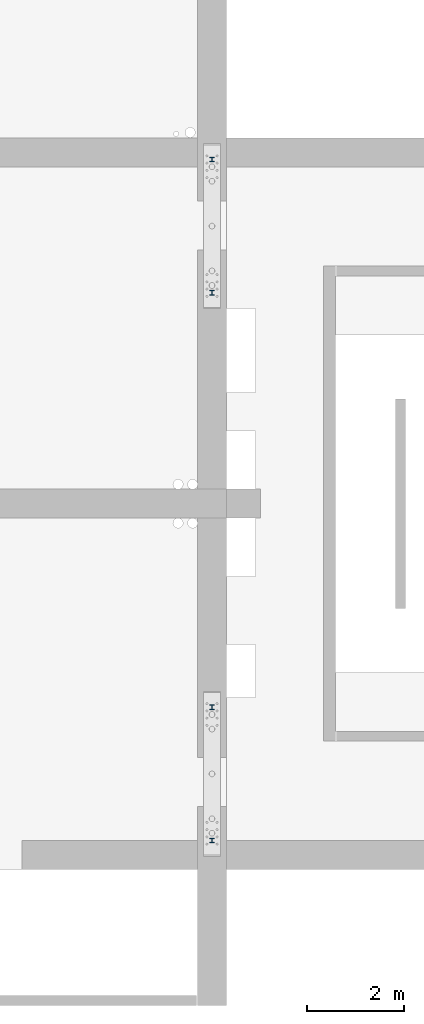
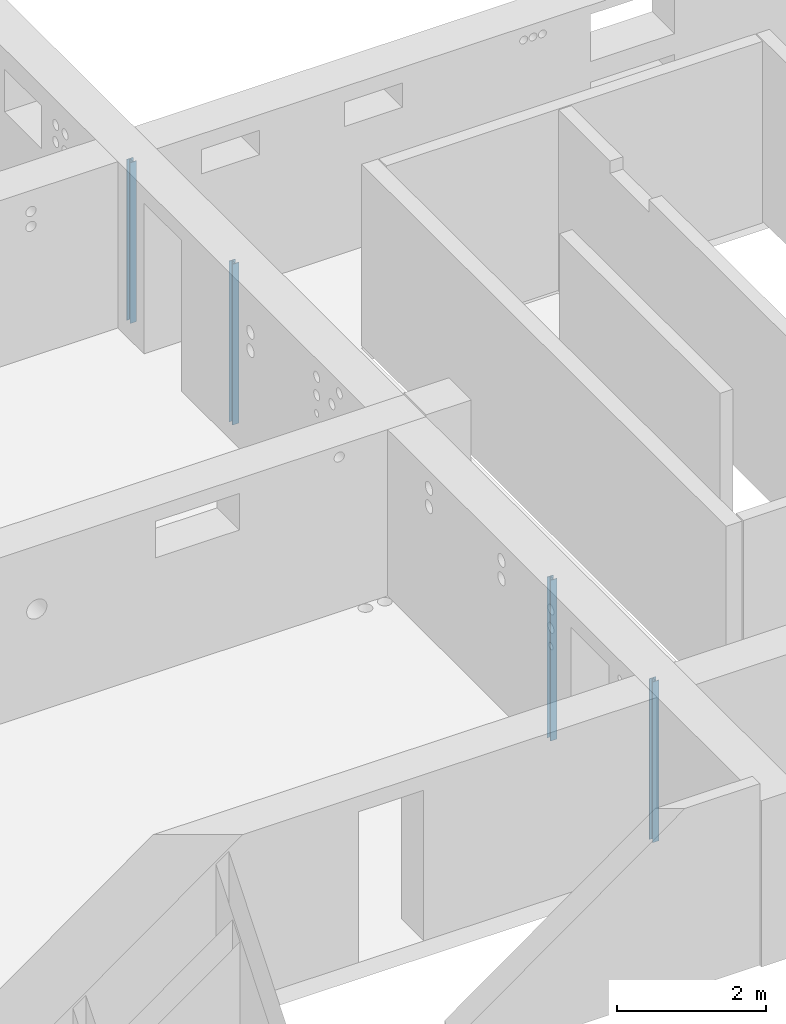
# One storey, part 1 of 8: 4 columns.
"""IFC2X3 building model written with IfcOpenShell, lengths in millimetres."""

from ifc_helpers import new_model, entity, si_unit, converted_unit, derived_unit, direction, frame, frame_2d, origin, place, context, subcontext, project, spatial, polyline, circle_curve, parameter, trimmed, segment, composite_curve, outline, extrude, source, transform, mapped, material, type_object, type_shapes, element, save


model = new_model("IFC2X3")

# Units and contexts
model_context = context("Model", 3, precision=0.01, world=origin(), true_north=direction((6.12303176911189e-17, 1.0)))
body_context = subcontext(model_context, "Body", "Model", "MODEL_VIEW")
ifc_project = project(units=[si_unit("LENGTHUNIT", "METRE", prefix="MILLI"), si_unit("AREAUNIT", "SQUARE_METRE"), si_unit("VOLUMEUNIT", "CUBIC_METRE"), converted_unit("PLANEANGLEUNIT", "DEGREE", entity("IfcRatioMeasure", 0.0174532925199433), si_unit("PLANEANGLEUNIT", "RADIAN"), dimensions=[0, 0, 0, 0, 0, 0, 0]), si_unit("MASSUNIT", "GRAM", prefix="KILO"), derived_unit("MASSDENSITYUNIT", [(si_unit("MASSUNIT", "GRAM", prefix="KILO"), 1), (si_unit("LENGTHUNIT", "METRE"), -3)]), si_unit("TIMEUNIT", "SECOND"), si_unit("FREQUENCYUNIT", "HERTZ"), si_unit("THERMODYNAMICTEMPERATUREUNIT", "DEGREE_CELSIUS"), derived_unit("THERMALTRANSMITTANCEUNIT", [(si_unit("MASSUNIT", "GRAM", prefix="KILO"), 1), (si_unit("THERMODYNAMICTEMPERATUREUNIT", "KELVIN"), -1), (si_unit("TIMEUNIT", "SECOND"), -3)]), derived_unit("VOLUMETRICFLOWRATEUNIT", [(si_unit("LENGTHUNIT", "METRE"), 3), (si_unit("TIMEUNIT", "SECOND"), -1)]), si_unit("ELECTRICCURRENTUNIT", "AMPERE"), si_unit("ELECTRICVOLTAGEUNIT", "VOLT"), si_unit("POWERUNIT", "WATT"), si_unit("FORCEUNIT", "NEWTON", prefix="KILO"), si_unit("ILLUMINANCEUNIT", "LUX"), si_unit("LUMINOUSFLUXUNIT", "LUMEN"), si_unit("LUMINOUSINTENSITYUNIT", "CANDELA"), derived_unit("USERDEFINED", [(si_unit("MASSUNIT", "GRAM", prefix="KILO"), -1), (si_unit("LENGTHUNIT", "METRE"), -2), (si_unit("TIMEUNIT", "SECOND"), 3), (si_unit("LUMINOUSFLUXUNIT", "LUMEN"), 1)]), derived_unit("LINEARVELOCITYUNIT", [(si_unit("LENGTHUNIT", "METRE"), 1), (si_unit("TIMEUNIT", "SECOND"), -1)]), si_unit("PRESSUREUNIT", "PASCAL"), derived_unit("USERDEFINED", [(si_unit("LENGTHUNIT", "METRE"), -2), (si_unit("MASSUNIT", "GRAM", prefix="KILO"), 1), (si_unit("TIMEUNIT", "SECOND"), -2)])], contexts=[model_context])

# Site, building, storey
site_placement = place(None, origin())
site = spatial("IfcSite", under=ifc_project, at=site_placement, Name="Default", CompositionType="ELEMENT")
building_placement = place(site_placement, origin())
building = spatial("IfcBuilding", under=site, at=building_placement, Name="niet gebruiken", CompositionType="ELEMENT")
storey_placement = place(building_placement, frame((0.0, 0.0, 3000.0)))
storey = spatial("IfcBuildingStorey", under=building, at=storey_placement, Name="00a eerste tussenverdieping", CompositionType="ELEMENT", Elevation=3000.00000000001)

# Columns
ifc_material = material(Name="NLRS_h2_staal")
column_type_1 = type_object("IfcColumnType", Name="kolom HEA 100", PredefinedType="COLUMN", material=ifc_material)
shared_shape_1 = source(origin(), body_context, "Body", "SweptSolid", [
    extrude(outline(composite_curve([segment(polyline([(40.0, -50.0), (48.0, -50.0)]), True, "CONTINUOUS"), segment(polyline([(48.0, -50.0), (48.0, 50.0)]), True, "CONTINUOUS"), segment(polyline([(48.0, 50.0), (40.0, 50.0)]), True, "CONTINUOUS"), segment(polyline([(40.0, 50.0), (40.0, 14.5000000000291)]), True, "CONTINUOUS"), segment(trimmed(circle_curve(frame_2d((28.0, 14.5000000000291), x_axis=(1.0, 0.0)), 12.0000000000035), [parameter(270.0)], [parameter(0.0)], True, "PARAMETER"), False, "CONTINUOUS"), segment(polyline([(28.0, 2.5000000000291), (-28.0, 2.5000000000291)]), True, "CONTINUOUS"), segment(trimmed(circle_curve(frame_2d((-28.0, 14.5000000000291), x_axis=(0.0, -1.0)), 12.0000000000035), [parameter(270.0)], [parameter(0.0)], True, "PARAMETER"), False, "CONTINUOUS"), segment(polyline([(-40.0, 14.5000000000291), (-40.0, 50.0)]), True, "CONTINUOUS"), segment(polyline([(-40.0, 50.0), (-48.0, 50.0)]), True, "CONTINUOUS"), segment(polyline([(-48.0, 50.0), (-48.0, -50.0)]), True, "CONTINUOUS"), segment(polyline([(-48.0, -50.0), (-40.0, -50.0)]), True, "CONTINUOUS"), segment(polyline([(-40.0, -50.0), (-40.0, -14.4999999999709)]), True, "CONTINUOUS"), segment(trimmed(circle_curve(frame_2d((-28.0, -14.5), x_axis=(-1.0, 0.0)), 12.0000000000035), [parameter(270.0)], [parameter(0.0)], True, "PARAMETER"), False, "CONTINUOUS"), segment(polyline([(-28.0, -2.4999999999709), (28.0, -2.4999999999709)]), True, "CONTINUOUS"), segment(trimmed(circle_curve(frame_2d((28.0, -14.5), x_axis=(0.0, 1.0)), 12.0000000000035), [parameter(270.0)], [parameter(0.0)], True, "PARAMETER"), False, "CONTINUOUS"), segment(polyline([(40.0, -14.5), (40.0, -50.0)]), True, "CONTINUOUS")], self_intersect=False)), frame((135700.0, 21853.0, 2830.0), z_axis=(0.0, 0.0, 1.0), x_axis=(0.0, -1.0, 0.0)), (0.0, 0.0, 1.0), 2640.0),
])
type_shapes(column_type_1, [shared_shape_1])
column_1_placement = place(storey_placement, frame((0.0, 0.0, -3000.0)))
element("IfcColumn", 1, at=column_1_placement, inside=storey, type_object=column_type_1, material=ifc_material, Name="NLRS_28.11_SCO_TLB_stalen kolom HEA_gen:kolom HEA 100", ObjectType="kolom HEA 100", context=body_context, shape_type="MappedRepresentation", body=[
    mapped(shared_shape_1, transform((0.0, 0.0, 0.0), scale=1.0)),
])
column_type_2 = type_object("IfcColumnType", Name="kolom HEA 100", PredefinedType="COLUMN", material=ifc_material)
shared_shape_2 = source(origin(), body_context, "Body", "SweptSolid", [
    extrude(outline(composite_curve([segment(polyline([(40.0, -50.0), (48.0, -50.0)]), True, "CONTINUOUS"), segment(polyline([(48.0, -50.0), (48.0, 50.0)]), True, "CONTINUOUS"), segment(polyline([(48.0, 50.0), (40.0, 50.0)]), True, "CONTINUOUS"), segment(polyline([(40.0, 50.0), (40.0, 14.4999999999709)]), True, "CONTINUOUS"), segment(trimmed(circle_curve(frame_2d((28.0, 14.4999999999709), x_axis=(1.0, 0.0)), 12.0000000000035), [parameter(270.0)], [parameter(0.0)], True, "PARAMETER"), False, "CONTINUOUS"), segment(polyline([(28.0, 2.5), (-28.0, 2.5)]), True, "CONTINUOUS"), segment(trimmed(circle_curve(frame_2d((-28.0, 14.4999999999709), x_axis=(0.0, -1.0)), 12.0000000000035), [parameter(270.0)], [parameter(0.0)], True, "PARAMETER"), False, "CONTINUOUS"), segment(polyline([(-40.0, 14.4999999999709), (-40.0, 50.0)]), True, "CONTINUOUS"), segment(polyline([(-40.0, 50.0), (-48.0, 50.0)]), True, "CONTINUOUS"), segment(polyline([(-48.0, 50.0), (-48.0, -50.0)]), True, "CONTINUOUS"), segment(polyline([(-48.0, -50.0), (-40.0, -50.0)]), True, "CONTINUOUS"), segment(polyline([(-40.0, -50.0), (-40.0, -14.5)]), True, "CONTINUOUS"), segment(trimmed(circle_curve(frame_2d((-28.0, -14.5000000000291), x_axis=(-1.0, 0.0)), 12.0000000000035), [parameter(270.0)], [parameter(0.0)], True, "PARAMETER"), False, "CONTINUOUS"), segment(polyline([(-28.0, -2.5), (28.0, -2.5)]), True, "CONTINUOUS"), segment(trimmed(circle_curve(frame_2d((28.0, -14.5000000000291), x_axis=(0.0, 1.0)), 12.0000000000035), [parameter(270.0)], [parameter(0.0)], True, "PARAMETER"), False, "CONTINUOUS"), segment(polyline([(40.0, -14.5000000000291), (40.0, -50.0)]), True, "CONTINUOUS")], self_intersect=False)), frame((135700.0, 24603.0, 2830.0), z_axis=(0.0, 0.0, 1.0), x_axis=(0.0, -1.0, 0.0)), (0.0, 0.0, 1.0), 2640.0),
])
type_shapes(column_type_2, [shared_shape_2])
column_2_placement = place(storey_placement, frame((0.0, 0.0, -3000.0)))
element("IfcColumn", 2, at=column_2_placement, inside=storey, type_object=column_type_2, material=ifc_material, Name="NLRS_28.11_SCO_TLB_stalen kolom HEA_gen:kolom HEA 100", ObjectType="kolom HEA 100", context=body_context, shape_type="MappedRepresentation", body=[
    mapped(shared_shape_2, transform((0.0, 0.0, 0.0), scale=1.0)),
])
column_type_3 = type_object("IfcColumnType", Name="kolom HEA 100", PredefinedType="COLUMN", material=ifc_material)
shared_shape_3 = source(origin(), body_context, "Body", "SweptSolid", [
    extrude(outline(composite_curve([segment(polyline([(40.0, -50.0), (48.0, -50.0)]), True, "CONTINUOUS"), segment(polyline([(48.0, -50.0), (48.0, 50.0)]), True, "CONTINUOUS"), segment(polyline([(48.0, 50.0), (40.0, 50.0)]), True, "CONTINUOUS"), segment(polyline([(40.0, 50.0), (40.0, 14.5)]), True, "CONTINUOUS"), segment(trimmed(circle_curve(frame_2d((28.0, 14.5), x_axis=(1.0, 0.0)), 11.9999999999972), [parameter(269.99999999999)], [parameter(0.0)], True, "PARAMETER"), False, "CONTINUOUS"), segment(polyline([(28.0, 2.5000000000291), (-28.0, 2.5000000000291)]), True, "CONTINUOUS"), segment(trimmed(circle_curve(frame_2d((-28.0, 14.5), x_axis=(0.0, -1.0)), 11.9999999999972), [parameter(269.99999999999)], [parameter(0.0)], True, "PARAMETER"), False, "CONTINUOUS"), segment(polyline([(-40.0, 14.5), (-40.0, 50.0)]), True, "CONTINUOUS"), segment(polyline([(-40.0, 50.0), (-48.0, 50.0)]), True, "CONTINUOUS"), segment(polyline([(-48.0, 50.0), (-48.0, -50.0)]), True, "CONTINUOUS"), segment(polyline([(-48.0, -50.0), (-40.0, -50.0)]), True, "CONTINUOUS"), segment(polyline([(-40.0, -50.0), (-40.0, -14.4999999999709)]), True, "CONTINUOUS"), segment(trimmed(circle_curve(frame_2d((-28.0, -14.5), x_axis=(-1.0, 0.0)), 11.9999999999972), [parameter(269.99999999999)], [parameter(0.0)], True, "PARAMETER"), False, "CONTINUOUS"), segment(polyline([(-28.0, -2.4999999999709), (28.0, -2.4999999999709)]), True, "CONTINUOUS"), segment(trimmed(circle_curve(frame_2d((28.0, -14.5), x_axis=(0.0, 1.0)), 11.9999999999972), [parameter(269.99999999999)], [parameter(0.0)], True, "PARAMETER"), False, "CONTINUOUS"), segment(polyline([(40.0, -14.5), (40.0, -50.0)]), True, "CONTINUOUS")], self_intersect=False)), frame((135700.0, 10550.0, 2830.0), z_axis=(0.0, 0.0, 1.0), x_axis=(0.0, -1.0, 0.0)), (0.0, 0.0, 1.0), 2640.0),
])
type_shapes(column_type_3, [shared_shape_3])
column_3_placement = place(storey_placement, frame((0.0, 0.0, -3000.0)))
element("IfcColumn", 3, at=column_3_placement, inside=storey, type_object=column_type_3, material=ifc_material, Name="NLRS_28.11_SCO_TLB_stalen kolom HEA_gen:kolom HEA 100", ObjectType="kolom HEA 100", context=body_context, shape_type="MappedRepresentation", body=[
    mapped(shared_shape_3, transform((0.0, 0.0, 0.0), scale=1.0)),
])
column_type_4 = type_object("IfcColumnType", Name="kolom HEA 100", PredefinedType="COLUMN", material=ifc_material)
shared_shape_4 = source(origin(), body_context, "Body", "SweptSolid", [
    extrude(outline(composite_curve([segment(polyline([(40.0, -50.0), (48.0, -50.0)]), True, "CONTINUOUS"), segment(polyline([(48.0, -50.0), (48.0, 50.0)]), True, "CONTINUOUS"), segment(polyline([(48.0, 50.0), (40.0, 50.0)]), True, "CONTINUOUS"), segment(polyline([(40.0, 50.0), (40.0, 14.5000000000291)]), True, "CONTINUOUS"), segment(trimmed(circle_curve(frame_2d((28.0, 14.5000000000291), x_axis=(1.0, 0.0)), 11.9999999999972), [parameter(269.99999999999)], [parameter(0.0)], True, "PARAMETER"), False, "CONTINUOUS"), segment(polyline([(28.0, 2.5000000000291), (-28.0, 2.5000000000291)]), True, "CONTINUOUS"), segment(trimmed(circle_curve(frame_2d((-28.0, 14.5000000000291), x_axis=(0.0, -1.0)), 11.9999999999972), [parameter(269.99999999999)], [parameter(0.0)], True, "PARAMETER"), False, "CONTINUOUS"), segment(polyline([(-40.0, 14.5000000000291), (-40.0, 50.0)]), True, "CONTINUOUS"), segment(polyline([(-40.0, 50.0), (-48.0, 50.0)]), True, "CONTINUOUS"), segment(polyline([(-48.0, 50.0), (-48.0, -50.0)]), True, "CONTINUOUS"), segment(polyline([(-48.0, -50.0), (-40.0, -50.0)]), True, "CONTINUOUS"), segment(polyline([(-40.0, -50.0), (-40.0, -14.4999999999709)]), True, "CONTINUOUS"), segment(trimmed(circle_curve(frame_2d((-28.0, -14.4999999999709), x_axis=(-1.0, 0.0)), 11.9999999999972), [parameter(269.99999999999)], [parameter(0.0)], True, "PARAMETER"), False, "CONTINUOUS"), segment(polyline([(-28.0, -2.4999999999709), (28.0, -2.4999999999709)]), True, "CONTINUOUS"), segment(trimmed(circle_curve(frame_2d((28.0, -14.4999999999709), x_axis=(0.0, 1.0)), 11.9999999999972), [parameter(269.99999999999)], [parameter(0.0)], True, "PARAMETER"), False, "CONTINUOUS"), segment(polyline([(40.0, -14.4999999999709), (40.0, -50.0)]), True, "CONTINUOUS")], self_intersect=False)), frame((135700.0, 13300.0, 2830.0), z_axis=(0.0, 0.0, 1.0), x_axis=(0.0, -1.0, 0.0)), (0.0, 0.0, 1.0), 2640.0),
])
type_shapes(column_type_4, [shared_shape_4])
column_4_placement = place(storey_placement, frame((0.0, 0.0, -3000.0)))
element("IfcColumn", 4, at=column_4_placement, inside=storey, type_object=column_type_4, material=ifc_material, Name="NLRS_28.11_SCO_TLB_stalen kolom HEA_gen:kolom HEA 100", ObjectType="kolom HEA 100", context=body_context, shape_type="MappedRepresentation", body=[
    mapped(shared_shape_4, transform((0.0, 0.0, 0.0), scale=1.0)),
])

save(model, "model.ifc")
